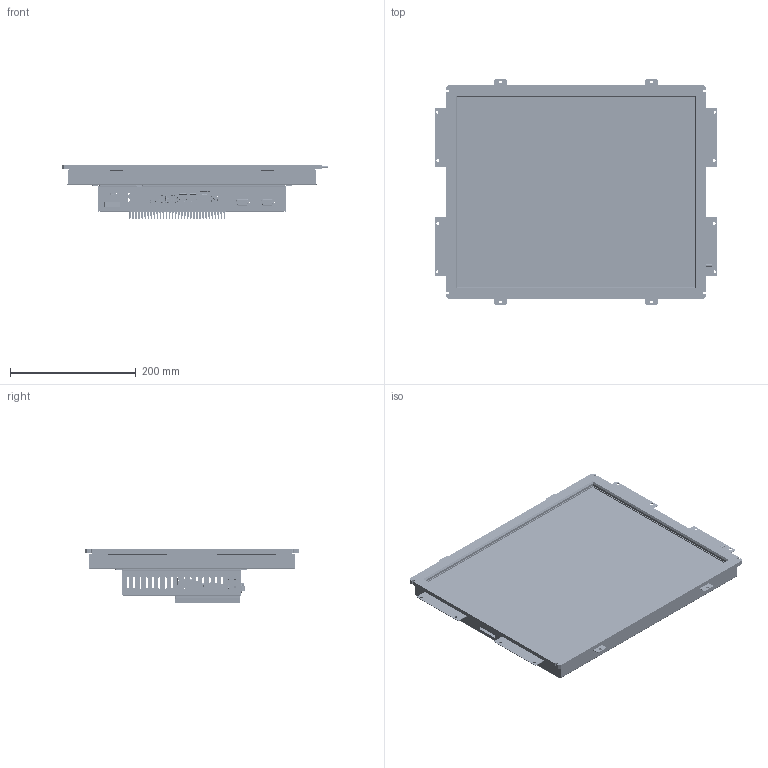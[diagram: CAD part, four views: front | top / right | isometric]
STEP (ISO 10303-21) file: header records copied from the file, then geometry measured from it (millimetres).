
FILE_DESCRIPTION (( 'STEP AP203' ), '1' );
FILE_NAME ('PPC190-51-IRU openframe.STEP', '2023-09-25T08:21:52', ( '' ), ( '' ), 'SwSTEP 2.0', 'SolidWorks 2023', '' );
FILE_SCHEMA (( 'CONFIG_CONTROL_DESIGN' ));
Length unit declared in the file: millimetre
Products named in the file (16): SO-3,5M3-6-ZI Inpersafstandsteun; Rocker switch; IOPC-10 Power button panelmount connector; AUO G190EG01_V1; PPC190-51-IRU openframe; PPC177-11 Heatsink JNF835; 2.5'''' HDD; LE-374_RS232_RS 446-462; MPO-190-10 Mounting plate; Tape-paneel^PPC190-51; BC-JNF835-10 Backcover; E19; JNF835-mainboard-assm; JNF835-heatspreader; PPC-JNF835-00_IRtouch panelmount
Assembly tree (29 placements, depth 3):
  PPC190-51-IRU openframe
    AUO G190EG01_V1
    MPO-190-10 Mounting plate
      MPO-190-10 Mounting plate
      SO-3,5M3-6-ZI Inpersafstandsteun  x14
    PPC-JNF835-00_IRtouch panelmount
      2.5'''' HDD
      Rocker switch
      LE-374_RS232_RS 446-462  x2
      BC-JNF835-10 Backcover
      JNF835-mainboard-assm
      JNF835-heatspreader
      PPC177-11 Heatsink JNF835
      IOPC-10 Power button panelmount connector
    Tape-paneel^PPC190-51
    E19
Bounding box: 450 x 359 x 86.35 mm (x, y, z)
Volume: 2454016.3 mm3; surface area: 1046866.5 mm2
Topology: 27 solids, 617 shells, 9432 faces, 39522 edges, 30043 vertices
Faces by surface type: bspline 7977, plane 877, cylinder 558, torus 20
Full cylindrical faces by diameter (mm): 0.92 x18, 1.95 x2, 2.5 x21, 3 x12, 3.2 x9, 3.3 x4, 3.4 x8, 3.5 x20, 4 x1, 4.5 x12, 5.4 x14, 5.49 x14, 6.5 x2, 7 x1, 8 x4
Entity records: 418551 total; most frequent: CARTESIAN_POINT 130303, ORIENTED_EDGE 56368, DIRECTION 45507, EDGE_CURVE 38871, VECTOR 30829, LINE 30829, VERTEX_POINT 29692, EDGE_LOOP 10576
